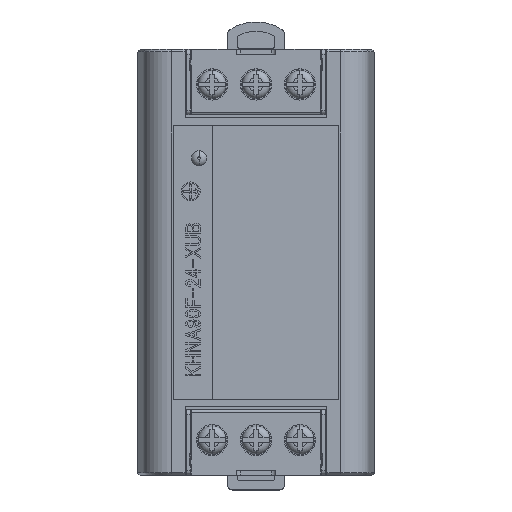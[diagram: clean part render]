
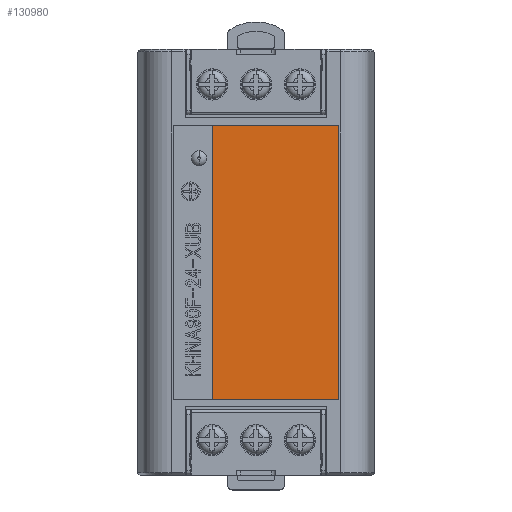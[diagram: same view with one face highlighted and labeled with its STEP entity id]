
A CAD part, top view. The second image highlights one B-rep face of the part: STEP entity #130980.
In plain terms, the highlighted planar face has unit normal (0, 0, 1).
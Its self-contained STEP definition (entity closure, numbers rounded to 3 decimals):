
#112350=CARTESIAN_POINT('',(25.864,101.5,23.6));
#112360=VERTEX_POINT('',#112350);
#112410=CARTESIAN_POINT('',(25.864,72.5,23.6));
#112420=DIRECTION('',(0.,1.,0.));
#112430=VECTOR('',#112420,1.);
#112440=LINE('',#112410,#112430);
#112450=CARTESIAN_POINT('',(25.864,43.5,23.6));
#112460=VERTEX_POINT('',#112450);
#112470=EDGE_CURVE('',#112460,#112360,#112440,.T.);
#130480=CARTESIAN_POINT('',(52.164,43.5,23.6));
#130490=DIRECTION('',(-1.,0.,0.));
#130500=VECTOR('',#130490,1.);
#130510=LINE('',#130480,#130500);
#130520=CARTESIAN_POINT('',(52.664,43.5,23.6));
#130530=VERTEX_POINT('',#130520);
#130540=EDGE_CURVE('',#130530,#112460,#130510,.T.);
#130750=CARTESIAN_POINT('',(35.164,72.5,23.6));
#130760=DIRECTION('',(0.,0.,1.));
#130770=DIRECTION('',(1.,0.,0.));
#130780=AXIS2_PLACEMENT_3D('',#130750,#130760,#130770);
#130790=PLANE('',#130780);
#130800=ORIENTED_EDGE('',*,*,#130540,.F.);
#130810=ORIENTED_EDGE('',*,*,#112470,.F.);
#130820=CARTESIAN_POINT('',(52.164,101.5,23.6));
#130830=DIRECTION('',(1.,0.,0.));
#130840=VECTOR('',#130830,1.);
#130850=LINE('',#130820,#130840);
#130860=CARTESIAN_POINT('',(52.664,101.5,23.6));
#130870=VERTEX_POINT('',#130860);
#130880=EDGE_CURVE('',#112360,#130870,#130850,.T.);
#130890=ORIENTED_EDGE('',*,*,#130880,.F.);
#130900=CARTESIAN_POINT('',(52.664,72.5,23.6));
#130910=DIRECTION('',(0.,-1.,0.));
#130920=VECTOR('',#130910,1.);
#130930=LINE('',#130900,#130920);
#130940=EDGE_CURVE('',#130870,#130530,#130930,.T.);
#130950=ORIENTED_EDGE('',*,*,#130940,.F.);
#130960=EDGE_LOOP('',(#130950,#130890,#130810,#130800));
#130970=FACE_OUTER_BOUND('',#130960,.T.);
#130980=ADVANCED_FACE('',(#130970),#130790,.T.);
